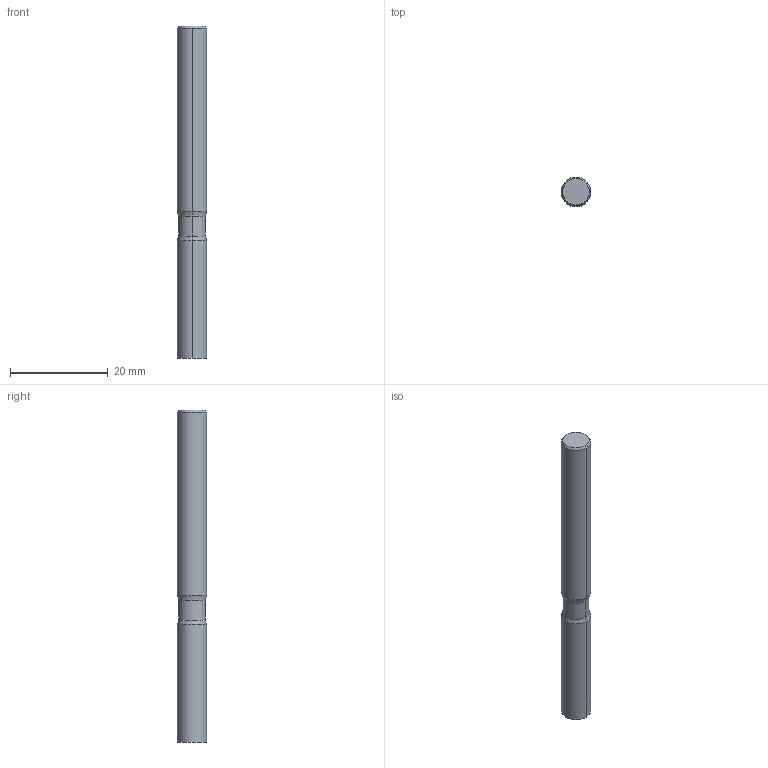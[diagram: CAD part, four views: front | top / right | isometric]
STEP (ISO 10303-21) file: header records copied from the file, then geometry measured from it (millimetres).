
FILE_DESCRIPTION((''),'2;1');
FILE_NAME('DIN4003_82_HEURO','2016-04-19T',('automc'),(''),'PRO/ENGINEER BY PARAMETRIC TECHNOLOGY CORPORATION, 2015280','PRO/ENGINEER BY PARAMETRIC TECHNOLOGY CORPORATION, 2015280','');
FILE_SCHEMA(('AUTOMOTIVE_DESIGN { 1 0 10303 214 1 1 1 1 }'));
Length unit declared in the file: millimetre
Products named in the file (1): DIN4003_82_HEURO
Bounding box: 6 x 6 x 68 mm (x, y, z)
Volume: 1897 mm3; surface area: 1327.2 mm2
Topology: 1 solids, 1 shells, 14 faces, 28 edges, 17 vertices
Faces by surface type: bspline 14
Entity records: 1445 total; most frequent: CARTESIAN_POINT 915, DIRECTION 76, ORIENTED_EDGE 52, AXIS2_PLACEMENT_3D 30, EDGE_CURVE 26, PRESENTATION_STYLE_ASSIGNMENT 25, STYLED_ITEM 25, CIRCLE 18
